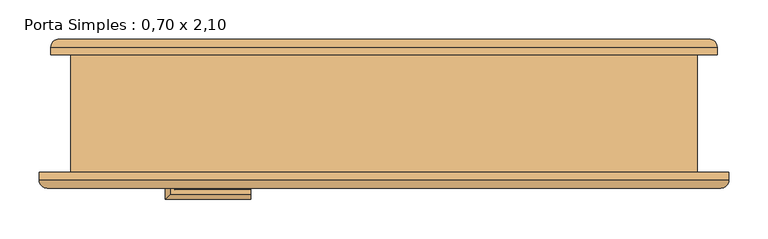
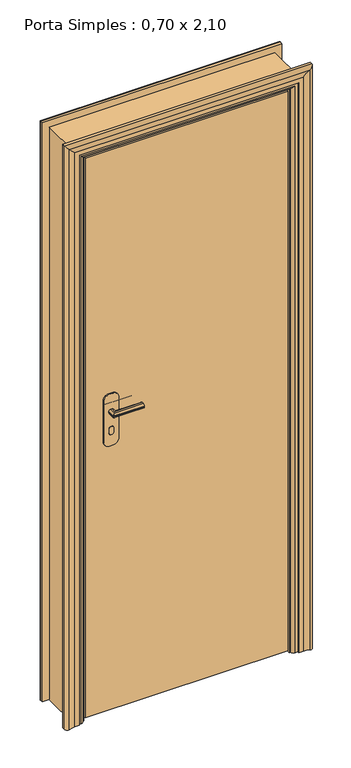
"""IFC4 building model written with IfcOpenShell, lengths in millimetres: door geometry, Porta Simples : 0,70 x 2,10."""

from ifc_helpers import new_model, si_unit, point, frame, frame_2d, origin, place, context, project, spatial, polyline, circle_curve, ellipse_curve, trimmed, segment, composite_curve, outline, extrude, faceted_brep, source, transform, mapped, element, save
from ifc_brep_helpers import plane_surface, cylinder_surface, revolved_surface, advanced_brep


def porta_simples_0_70_x_2_10_61f2850b(model_context):
    return source(origin(), model_context, "Body", "SolidModel", [
        faceted_brep([(-275.0, -75.0, 0.0), (-275.0, 75.0, 0.0), (-225.0, 75.0, 0.0), (-225.0, -45.0, 0.0), (-240.0, -45.0, 0.0), (-240.0, -75.0, 0.0), (-275.0, -75.0, 2150.0), (-275.0, 75.0, 2150.0), (525.0, 75.0, 2150.0), (525.0, 75.0, 0.0), (475.0, 75.0, 0.0), (475.0, 75.0, 2100.0), (-225.0, 75.0, 2100.0), (-225.0, -45.0, 2100.0), (475.0, -45.0, 2100.0), (475.0, -45.0, 0.0), (490.0, -45.0, 0.0), (490.0, -45.0, 2115.0), (-240.0, -45.0, 2115.0), (-240.0, -75.0, 2115.0), (490.0, -75.0, 2115.0), (490.0, -75.0, 0.0), (525.0, -75.0, 0.0), (525.0, -75.0, 2150.0)], [[[0, 1, 2, 3, 4, 5]], [[1, 0, 6, 7]], [[2, 1, 7, 8, 9, 10, 11, 12]], [[3, 2, 12, 13]], [[4, 3, 13, 14, 15, 16, 17, 18]], [[5, 4, 18, 19]], [[0, 5, 19, 20, 21, 22, 23, 6]], [[8, 23, 22, 9]], [[22, 21, 16, 15, 10, 9]], [[14, 11, 10, 15]], [[20, 17, 16, 21]], [[7, 6, 23, 8]], [[13, 12, 11, 14]], [[19, 18, 17, 20]]]),
        advanced_brep(
        [(-315.0, -75.0, 0.0), (-245.0, -75.0, 0.0), (-255.0, -85.0, 0.0), (-265.0, -85.0, 0.0), (-265.0, -90.0, 0.0), (-280.6293207, -90.0, 0.0), (-302.4138145, -94.6597953, 0.0), (-315.0, -85.0, 0.0), (-315.0, -75.0, 2190.0), (565.0, -75.0, 2190.0), (565.0, -75.0, 0.0), (495.0, -75.0, 0.0), (495.0, -75.0, 2120.0), (-245.0, -75.0, 2120.0), (-255.0, -85.0, 2130.0), (505.0, -85.0, 2130.0), (505.0, -85.0, 0.0), (515.0, -85.0, 0.0), (515.0, -85.0, 2140.0), (-265.0, -85.0, 2140.0), (-265.0, -90.0, 2140.0), (515.0, -90.0, 2140.0), (515.0, -90.0, 0.0), (530.6293207, -90.0, 0.0), (530.6293207, -90.0, 2155.6293207), (-280.6293207, -90.0, 2155.6293207), (-302.4138145, -94.6597953, 2177.4138145), (-315.0, -85.0, 2190.0), (565.0, -85.0, 2190.0), (565.0, -85.0, 0.0), (552.4138145, -94.6597953, 0.0), (552.4138145, -94.6597953, 2177.4138145)],
        [
            (0, 1),
            (1, 2, circle_curve(frame((-255.0, -75.0, 0.0), z_axis=(0.0, 0.0, -1.0), x_axis=(-1.0, 0.0, 0.0)), 10.0)),
            (2, 3),
            (3, 4),
            (4, 5),
            (5, 6, circle_curve(frame((-277.8146603, -156.4095448, 0.0), z_axis=(0.0, 0.0, 1.0), x_axis=(-1.0, 0.0, 0.0)), 66.4691655)),
            (6, 7, circle_curve(frame((-305.0, -85.0, 0.0), z_axis=(0.0, 0.0, -1.0), x_axis=(-1.0, 0.0, 0.0)), 10.0)),
            (7, 0),
            (0, 8),
            (8, 9),
            (9, 10),
            (10, 11),
            (11, 12),
            (12, 13),
            (13, 1),
            (13, 14, ellipse_curve(frame((-255.0, -75.0, 2130.0), z_axis=(-0.7071067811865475, 0.0, -0.7071067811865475), x_axis=(0.7071067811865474, 0.0, -0.7071067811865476)), 14.1421356, 10.0)),
            (14, 2),
            (14, 15),
            (15, 16),
            (16, 17),
            (17, 18),
            (18, 19),
            (19, 3),
            (19, 20),
            (20, 4),
            (20, 21),
            (21, 22),
            (22, 23),
            (23, 24),
            (24, 25),
            (25, 5),
            (25, 26, ellipse_curve(frame((-277.8146603, -156.4095448, 2152.8146603), z_axis=(0.7071067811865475, 0.0, 0.7071067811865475), x_axis=(-0.7071067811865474, 0.0, 0.7071067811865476)), 94.0015953, 66.4691655)),
            (26, 6),
            (26, 27, ellipse_curve(frame((-305.0, -85.0, 2180.0), z_axis=(-0.7071067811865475, 0.0, -0.7071067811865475), x_axis=(0.7071067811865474, 0.0, -0.7071067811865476)), 14.1421356, 10.0)),
            (27, 7),
            (27, 8),
            (9, 28),
            (28, 29),
            (29, 10),
            (29, 30, circle_curve(frame((555.0, -85.0, 0.0), z_axis=(0.0, 0.0, -1.0), x_axis=(1.0, 0.0, 0.0)), 10.0)),
            (30, 23, circle_curve(frame((527.8146603, -156.4095448, 0.0), z_axis=(0.0, 0.0, 1.0), x_axis=(1.0, 0.0, 0.0)), 66.4691655)),
            (22, 17),
            (16, 11, circle_curve(frame((505.0, -75.0, 0.0), z_axis=(0.0, 0.0, -1.0), x_axis=(1.0, 0.0, 0.0)), 10.0)),
            (15, 12, ellipse_curve(frame((505.0, -75.0, 2130.0), z_axis=(0.7071067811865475, 0.0, -0.7071067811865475), x_axis=(0.7071067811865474, 0.0, 0.7071067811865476)), 14.1421356, 10.0)),
            (21, 18),
            (31, 24, ellipse_curve(frame((527.8146603, -156.4095448, 2152.8146603), z_axis=(-0.7071067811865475, 0.0, 0.7071067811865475), x_axis=(-0.7071067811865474, 0.0, -0.7071067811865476)), 94.0015953, 66.4691655)),
            (30, 31),
            (28, 31, ellipse_curve(frame((555.0, -85.0, 2180.0), z_axis=(0.7071067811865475, 0.0, -0.7071067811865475), x_axis=(0.7071067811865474, 0.0, 0.7071067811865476)), 14.1421356, 10.0)),
            (31, 26),
            (28, 27),
        ],
        [
            plane_surface(frame((-225.0, -75.0, 0.0), z_axis=(0.0, 0.0, -1.0), x_axis=(0.0, -1.0, 0.0))),
            plane_surface(frame((-315.0, -75.0, 0.0), z_axis=(0.0, 1.0, 0.0), x_axis=(0.0, 0.0, 1.0))),
            cylinder_surface(frame((-255.0, -75.0, 0.0), z_axis=(0.0, 0.0, -1.0), x_axis=(-1.0, 0.0, 0.0)), 10.0),
            plane_surface(frame((-255.0, -85.0, 0.0), z_axis=(0.0, -1.0, 0.0), x_axis=(0.0, 0.0, 1.0))),
            plane_surface(frame((-265.0, -85.0, 0.0), z_axis=(1.0, 0.0, 0.0), x_axis=(0.0, 0.0, 1.0))),
            plane_surface(frame((-265.0, -90.0, 0.0), z_axis=(0.0, -1.0, 0.0), x_axis=(0.0, 0.0, 1.0))),
            revolved_surface(polyline([(-344.28382580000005, -156.4095448, 2219.2838257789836), (-344.28382580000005, -156.4095448, 0.0)]), (-277.8146603, -156.4095448, 0.0), (0.0, 0.0, 1.0)),
            cylinder_surface(frame((-305.0, -85.0, 0.0), z_axis=(0.0, 0.0, -1.0), x_axis=(-1.0, 0.0, 0.0)), 10.0),
            plane_surface(frame((-315.0, -85.0, 0.0), z_axis=(-1.0, 0.0, 0.0), x_axis=(0.0, 0.0, 1.0))),
            plane_surface(frame((565.0, -85.0, 2190.0), z_axis=(1.0, 0.0, 0.0), x_axis=(0.0, 0.0, -1.0))),
            plane_surface(frame((475.0, -75.0, 0.0), z_axis=(0.0, 0.0, -1.0), x_axis=(0.0, -1.0, 0.0))),
            cylinder_surface(frame((505.0, -75.0, 2100.0), z_axis=(0.0, 0.0, 1.0), x_axis=(1.0, 0.0, 0.0)), 10.0),
            plane_surface(frame((515.0, -85.0, 2140.0), z_axis=(-1.0, 0.0, 0.0), x_axis=(0.0, 0.0, -1.0))),
            revolved_surface(polyline([(594.2838258, -156.4095448, 0.0), (594.2838258, -156.4095448, 2219.2838257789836)]), (527.8146603, -156.4095448, 2100.0), (0.0, 0.0, -1.0)),
            cylinder_surface(frame((555.0, -85.0, 2100.0), z_axis=(0.0, 0.0, 1.0), x_axis=(1.0, 0.0, 0.0)), 10.0),
            cylinder_surface(frame((-225.0, -75.0, 2130.0), z_axis=(-1.0, 0.0, 0.0), x_axis=(0.0, 0.0, 1.0)), 10.0),
            plane_surface(frame((-265.0, -85.0, 2140.0), z_axis=(0.0, 0.0, -1.0), x_axis=(1.0, 0.0, 0.0))),
            revolved_surface(polyline([(594.2838257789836, -156.4095448, 2219.2838258), (-344.2838257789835, -156.4095448, 2219.2838258)]), (-225.0, -156.4095448, 2152.8146603), (1.0, 0.0, 0.0)),
            cylinder_surface(frame((-225.0, -85.0, 2180.0), z_axis=(-1.0, 0.0, 0.0), x_axis=(0.0, 0.0, 1.0)), 10.0),
            plane_surface(frame((-315.0, -85.0, 2190.0), z_axis=(0.0, 0.0, 1.0), x_axis=(1.0, 0.0, 0.0))),
        ],
        [
            (0, [[1, 2, 3, 4, 5, 6, 7, 8]]),
            (1, [[-1, 9, 10, 11, 12, 13, 14, 15]]),
            (2, [[-2, -15, 16, 17]]),
            (3, [[-3, -17, 18, 19, 20, 21, 22, 23]]),
            (4, [[-4, -23, 24, 25]]),
            (5, [[-5, -25, 26, 27, 28, 29, 30, 31]]),
            (6, [[-6, -31, 32, 33]]),
            (7, [[-7, -33, 34, 35]]),
            (8, [[-8, -35, 36, -9]]),
            (9, [[37, 38, 39, -11]]),
            (10, [[-39, 40, 41, -28, 42, -20, 43, -12]]),
            (11, [[44, -13, -43, -19]]),
            (12, [[45, -21, -42, -27]]),
            (13, [[46, -29, -41, 47]]),
            (14, [[48, -47, -40, -38]]),
            (15, [[-16, -14, -44, -18]]),
            (16, [[-24, -22, -45, -26]]),
            (17, [[-32, -30, -46, 49]]),
            (18, [[-34, -49, -48, 50]]),
            (19, [[-36, -50, -37, -10]]),
        ],
    ),
        advanced_brep(
        [(550.0, 75.0, 0.0), (480.0, 75.0, 0.0), (490.0, 85.0, 0.0), (500.0, 85.0, 0.0), (500.0, 90.0, 0.0), (515.6293207, 90.0, 0.0), (537.4138145, 94.6597953, 0.0), (550.0, 85.0, 0.0), (550.0, 75.0, 2175.0), (-300.0, 75.0, 2175.0), (-300.0, 75.0, 0.0), (-230.0, 75.0, 0.0), (-230.0, 75.0, 2105.0), (480.0, 75.0, 2105.0), (490.0, 85.0, 2115.0), (-240.0, 85.0, 2115.0), (-240.0, 85.0, 0.0), (-250.0, 85.0, 0.0), (-250.0, 85.0, 2125.0), (500.0, 85.0, 2125.0), (500.0, 90.0, 2125.0), (-250.0, 90.0, 2125.0), (-250.0, 90.0, 0.0), (-265.6293207, 90.0, 0.0), (-265.6293207, 90.0, 2140.6293207), (515.6293207, 90.0, 2140.6293207), (537.4138145, 94.6597953, 2162.4138145), (550.0, 85.0, 2175.0), (-300.0, 85.0, 2175.0), (-300.0, 85.0, 0.0), (-287.4138145, 94.6597953, 0.0), (-287.4138145, 94.6597953, 2162.4138145)],
        [
            (0, 1),
            (1, 2, circle_curve(frame((490.0, 75.0, 0.0), z_axis=(0.0, 0.0, -1.0), x_axis=(-1.0, 0.0, 0.0)), 10.0)),
            (2, 3),
            (3, 4),
            (4, 5),
            (5, 6, circle_curve(frame((512.8146603, 156.4095448, 0.0), z_axis=(0.0, 0.0, 1.0), x_axis=(-1.0, 0.0, 0.0)), 66.4691655)),
            (6, 7, circle_curve(frame((540.0, 85.0, 0.0), z_axis=(0.0, 0.0, -1.0), x_axis=(-1.0, 0.0, 0.0)), 10.0)),
            (7, 0),
            (0, 8),
            (8, 9),
            (9, 10),
            (10, 11),
            (11, 12),
            (12, 13),
            (13, 1),
            (13, 14, ellipse_curve(frame((490.0, 75.0, 2115.0), z_axis=(0.7071067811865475, 0.0, -0.7071067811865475), x_axis=(-0.7071067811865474, 0.0, -0.7071067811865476)), 14.1421356, 10.0)),
            (14, 2),
            (14, 15),
            (15, 16),
            (16, 17),
            (17, 18),
            (18, 19),
            (19, 3),
            (19, 20),
            (20, 4),
            (20, 21),
            (21, 22),
            (22, 23),
            (23, 24),
            (24, 25),
            (25, 5),
            (25, 26, ellipse_curve(frame((512.8146603, 156.4095448, 2137.8146603), z_axis=(-0.7071067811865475, 0.0, 0.7071067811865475), x_axis=(0.7071067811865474, 0.0, 0.7071067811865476)), 94.0015953, 66.4691655)),
            (26, 6),
            (26, 27, ellipse_curve(frame((540.0, 85.0, 2165.0), z_axis=(0.7071067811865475, 0.0, -0.7071067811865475), x_axis=(-0.7071067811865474, 0.0, -0.7071067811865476)), 14.1421356, 10.0)),
            (27, 7),
            (27, 8),
            (9, 28),
            (28, 29),
            (29, 10),
            (29, 30, circle_curve(frame((-290.0, 85.0, 0.0), z_axis=(0.0, 0.0, -1.0), x_axis=(1.0, 0.0, 0.0)), 10.0)),
            (30, 23, circle_curve(frame((-262.8146603, 156.4095448, 0.0), z_axis=(0.0, 0.0, 1.0), x_axis=(1.0, 0.0, 0.0)), 66.4691655)),
            (22, 17),
            (16, 11, circle_curve(frame((-240.0, 75.0, 0.0), z_axis=(0.0, 0.0, -1.0), x_axis=(1.0, 0.0, 0.0)), 10.0)),
            (15, 12, ellipse_curve(frame((-240.0, 75.0, 2115.0), z_axis=(-0.7071067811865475, 0.0, -0.7071067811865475), x_axis=(-0.7071067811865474, 0.0, 0.7071067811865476)), 14.1421356, 10.0)),
            (21, 18),
            (31, 24, ellipse_curve(frame((-262.8146603, 156.4095448, 2137.8146603), z_axis=(0.7071067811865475, 0.0, 0.7071067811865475), x_axis=(0.7071067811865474, 0.0, -0.7071067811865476)), 94.0015953, 66.4691655)),
            (30, 31),
            (28, 31, ellipse_curve(frame((-290.0, 85.0, 2165.0), z_axis=(-0.7071067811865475, 0.0, -0.7071067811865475), x_axis=(-0.7071067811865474, 0.0, 0.7071067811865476)), 14.1421356, 10.0)),
            (31, 26),
            (28, 27),
        ],
        [
            plane_surface(frame((475.0, 75.0, 0.0), z_axis=(0.0, 0.0, -1.0), x_axis=(0.0, -1.0, 0.0))),
            plane_surface(frame((550.0, 75.0, 0.0), z_axis=(0.0, -1.0, 0.0), x_axis=(0.0, 0.0, 1.0))),
            cylinder_surface(frame((490.0, 75.0, 0.0), z_axis=(0.0, 0.0, -1.0), x_axis=(-1.0, 0.0, 0.0)), 10.0),
            plane_surface(frame((490.0, 85.0, 0.0), z_axis=(0.0, 1.0, 0.0), x_axis=(0.0, 0.0, 1.0))),
            plane_surface(frame((500.0, 85.0, 0.0), z_axis=(-1.0, 0.0, 0.0), x_axis=(0.0, 0.0, 1.0))),
            plane_surface(frame((500.0, 90.0, 0.0), z_axis=(0.0, 1.0, 0.0), x_axis=(0.0, 0.0, 1.0))),
            revolved_surface(polyline([(446.3454948, 156.4095448, 2204.2838257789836), (446.3454948, 156.4095448, 0.0)]), (512.8146603, 156.4095448, 0.0), (0.0, 0.0, 1.0)),
            cylinder_surface(frame((540.0, 85.0, 0.0), z_axis=(0.0, 0.0, -1.0), x_axis=(-1.0, 0.0, 0.0)), 10.0),
            plane_surface(frame((550.0, 85.0, 0.0), z_axis=(1.0, 0.0, 0.0), x_axis=(0.0, 0.0, 1.0))),
            plane_surface(frame((-300.0, 85.0, 2175.0), z_axis=(-1.0, 0.0, 0.0), x_axis=(0.0, 0.0, -1.0))),
            plane_surface(frame((-225.0, 75.0, 0.0), z_axis=(0.0, 0.0, -1.0), x_axis=(0.0, -1.0, 0.0))),
            cylinder_surface(frame((-240.0, 75.0, 2100.0), z_axis=(0.0, 0.0, 1.0), x_axis=(1.0, 0.0, 0.0)), 10.0),
            plane_surface(frame((-250.0, 85.0, 2125.0), z_axis=(1.0, 0.0, 0.0), x_axis=(0.0, 0.0, -1.0))),
            revolved_surface(polyline([(-196.3454948, 156.4095448, 0.0), (-196.3454948, 156.4095448, 2204.2838257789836)]), (-262.8146603, 156.4095448, 2100.0), (0.0, 0.0, -1.0)),
            cylinder_surface(frame((-290.0, 85.0, 2100.0), z_axis=(0.0, 0.0, 1.0), x_axis=(1.0, 0.0, 0.0)), 10.0),
            cylinder_surface(frame((475.0, 75.0, 2115.0), z_axis=(1.0, 0.0, 0.0), x_axis=(0.0, 0.0, -1.0)), 10.0),
            plane_surface(frame((500.0, 85.0, 2125.0), z_axis=(0.0, 0.0, -1.0), x_axis=(-1.0, 0.0, 0.0))),
            revolved_surface(polyline([(-329.28382577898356, 156.4095448, 2071.3454948), (579.2838257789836, 156.4095448, 2071.3454948)]), (475.0, 156.4095448, 2137.8146603), (-1.0, 0.0, 0.0)),
            cylinder_surface(frame((475.0, 85.0, 2165.0), z_axis=(1.0, 0.0, 0.0), x_axis=(0.0, 0.0, -1.0)), 10.0),
            plane_surface(frame((550.0, 85.0, 2175.0), z_axis=(0.0, 0.0, 1.0), x_axis=(-1.0, 0.0, 0.0))),
        ],
        [
            (0, [[1, 2, 3, 4, 5, 6, 7, 8]]),
            (1, [[-1, 9, 10, 11, 12, 13, 14, 15]]),
            (2, [[-2, -15, 16, 17]]),
            (3, [[-3, -17, 18, 19, 20, 21, 22, 23]]),
            (4, [[-4, -23, 24, 25]]),
            (5, [[-5, -25, 26, 27, 28, 29, 30, 31]]),
            (6, [[-6, -31, 32, 33]]),
            (7, [[-7, -33, 34, 35]]),
            (8, [[-8, -35, 36, -9]]),
            (9, [[37, 38, 39, -11]]),
            (10, [[-39, 40, 41, -28, 42, -20, 43, -12]]),
            (11, [[44, -13, -43, -19]]),
            (12, [[45, -21, -42, -27]]),
            (13, [[46, -29, -41, 47]]),
            (14, [[48, -47, -40, -38]]),
            (15, [[-16, -14, -44, -18]]),
            (16, [[-24, -22, -45, -26]]),
            (17, [[-32, -30, -46, 49]]),
            (18, [[-34, -49, -48, 50]]),
            (19, [[-36, -50, -37, -10]]),
        ],
    ),
        extrude(outline(polyline([(485.0, -75.0), (-235.0, -75.0), (-235.0, -50.0), (485.0, -50.0), (485.0, -75.0)])), frame((0.0, 0.0, 8.1477484), z_axis=(0.0, 0.0, 1.0), x_axis=(1.0, 0.0, 0.0)), (0.0, 0.0, 1.0), 2101.656598),
        extrude(outline(composite_curve([segment(polyline([(1074.1608226, -141.7917437), (1074.1608226, -146.7917437)]), True, "CONTINUOUS"), segment(trimmed(circle_curve(frame_2d((1069.1608226, -146.7917437)), 5.0), [point((1074.1608226, -146.7917437))], [point((1069.1608226, -151.7917437))], False, "CARTESIAN"), True, "CONTINUOUS"), segment(polyline([(1069.1608226, -151.7917437), (1049.1608226, -151.7917437)]), True, "CONTINUOUS"), segment(trimmed(circle_curve(frame_2d((1049.1608226, -146.7917437)), 5.0), [point((1049.1608226, -151.7917437))], [point((1044.1608226, -146.7917437))], False, "CARTESIAN"), True, "CONTINUOUS"), segment(polyline([(1044.1608226, -146.7917437), (1044.1608226, -141.7917437)]), True, "CONTINUOUS"), segment(trimmed(circle_curve(frame_2d((1049.1608226, -141.7917437)), 5.0), [point((1044.1608226, -141.7917437))], [point((1049.1608226, -136.7917437))], False, "CARTESIAN"), True, "CONTINUOUS"), segment(polyline([(1049.1608226, -136.7917437), (1069.1608226, -136.7917437)]), True, "CONTINUOUS"), segment(trimmed(circle_curve(frame_2d((1069.1608226, -141.7917437)), 5.0), [point((1069.1608226, -136.7917437))], [point((1074.1608226, -141.7917437))], False, "CARTESIAN"), True, "CONTINUOUS")], self_intersect=False)), frame((0.0, -50.0, 0.0), z_axis=(0.0, 1.0, 0.0), x_axis=(0.0, 0.0, 1.0)), (0.0, 0.0, 1.0), 5.0),
        advanced_brep(
        [(-142.0, -45.0, 1139.6482305), (-148.0, -45.0, 1139.6482305), (-154.0, -45.0, 1133.6482305), (-154.0, -45.0, 1129.6482305), (-148.0, -45.0, 1123.6482305), (-142.0, -45.0, 1123.6482305), (-136.0, -45.0, 1129.6482305), (-136.0, -45.0, 1133.6482305), (-142.0, -28.0, 1139.6482305), (-45.0, -28.0, 1139.6482305), (-45.0, -22.0, 1139.6482305), (-148.0, -22.0, 1139.6482305), (-154.0, -16.0, 1133.6482305), (-154.0, -16.0, 1129.6482305), (-148.0, -22.0, 1123.6482305), (-45.0, -22.0, 1123.6482305), (-45.0, -28.0, 1123.6482305), (-142.0, -28.0, 1123.6482305), (-136.0, -34.0, 1129.6482305), (-136.0, -34.0, 1133.6482305), (-45.0, -34.0, 1133.6482305), (-45.0, -34.0, 1129.6482305), (-45.0, -16.0, 1129.6482305), (-45.0, -16.0, 1133.6482305)],
        [
            (0, 1),
            (1, 2, circle_curve(frame((-148.0, -45.0, 1133.6482305), z_axis=(0.0, -1.0, 0.0), x_axis=(-1.0, 0.0, 0.0)), 6.0)),
            (2, 3),
            (3, 4, circle_curve(frame((-148.0, -45.0, 1129.6482305), z_axis=(0.0, -1.0, 0.0), x_axis=(-1.0, 0.0, 0.0)), 6.0)),
            (4, 5),
            (5, 6, circle_curve(frame((-142.0, -45.0, 1129.6482305), z_axis=(0.0, -1.0, 0.0), x_axis=(-1.0, 0.0, 0.0)), 6.0)),
            (6, 7),
            (7, 0, circle_curve(frame((-142.0, -45.0, 1133.6482305), z_axis=(0.0, -1.0, 0.0), x_axis=(-1.0, 0.0, 0.0)), 6.0)),
            (0, 8),
            (8, 9),
            (9, 10),
            (10, 11),
            (11, 1),
            (11, 12, ellipse_curve(frame((-148.0, -22.0, 1133.6482305), z_axis=(-0.7071067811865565, -0.7071067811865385, 0.0), x_axis=(0.7071067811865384, -0.7071067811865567, 0.0)), 8.4852814, 6.0)),
            (12, 2),
            (12, 13),
            (13, 3),
            (13, 14, ellipse_curve(frame((-148.0, -22.0, 1129.6482305), z_axis=(-0.7071067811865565, -0.7071067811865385, 0.0), x_axis=(0.7071067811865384, -0.7071067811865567, 0.0)), 8.4852814, 6.0)),
            (14, 4),
            (14, 15),
            (15, 16),
            (16, 17),
            (17, 5),
            (17, 18, ellipse_curve(frame((-142.0, -28.0, 1129.6482305), z_axis=(-0.7071067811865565, -0.7071067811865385, 0.0), x_axis=(0.7071067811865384, -0.7071067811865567, 0.0)), 8.4852814, 6.0)),
            (18, 6),
            (18, 19),
            (19, 7),
            (19, 8, ellipse_curve(frame((-142.0, -28.0, 1133.6482305), z_axis=(-0.7071067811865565, -0.7071067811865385, 0.0), x_axis=(0.7071067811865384, -0.7071067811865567, 0.0)), 8.4852814, 6.0)),
            (9, 20, circle_curve(frame((-45.0, -28.0, 1133.6482305), z_axis=(1.0, 0.0, 0.0), x_axis=(0.0, 1.0, 0.0)), 6.0)),
            (20, 21),
            (21, 16, circle_curve(frame((-45.0, -28.0, 1129.6482305), z_axis=(1.0, 0.0, 0.0), x_axis=(0.0, 1.0, 0.0)), 6.0)),
            (15, 22, circle_curve(frame((-45.0, -22.0, 1129.6482305), z_axis=(1.0, 0.0, 0.0), x_axis=(0.0, 1.0, 0.0)), 6.0)),
            (22, 23),
            (23, 10, circle_curve(frame((-45.0, -22.0, 1133.6482305), z_axis=(1.0, 0.0, 0.0), x_axis=(0.0, 1.0, 0.0)), 6.0)),
            (23, 12),
            (22, 13),
            (21, 18),
            (20, 19),
        ],
        [
            plane_surface(frame((-145.0, -45.0, 0.0), z_axis=(0.0, -1.0, 0.0), x_axis=(0.0, 0.0, 1.0))),
            plane_surface(frame((-142.0, -45.0, 1139.6482305), z_axis=(0.0, 0.0, 1.0), x_axis=(0.0, 1.0, 0.0))),
            cylinder_surface(frame((-148.0, -45.0, 1133.6482305), z_axis=(0.0, -1.0, 0.0), x_axis=(-1.0, 0.0, 0.0)), 6.0),
            plane_surface(frame((-154.0, -45.0, 1133.6482305), z_axis=(-1.0, 0.0, 0.0), x_axis=(0.0, 1.0, 0.0))),
            cylinder_surface(frame((-148.0, -45.0, 1129.6482305), z_axis=(0.0, -1.0, 0.0), x_axis=(-1.0, 0.0, 0.0)), 6.0),
            plane_surface(frame((-148.0, -45.0, 1123.6482305), z_axis=(0.0, 0.0, -1.0), x_axis=(0.0, 1.0, 0.0))),
            cylinder_surface(frame((-142.0, -45.0, 1129.6482305), z_axis=(0.0, -1.0, 0.0), x_axis=(-1.0, 0.0, 0.0)), 6.0),
            plane_surface(frame((-136.0, -45.0, 1129.6482305), z_axis=(1.0, 0.0, 0.0), x_axis=(0.0, 1.0, 0.0))),
            cylinder_surface(frame((-142.0, -45.0, 1133.6482305), z_axis=(0.0, -1.0, 0.0), x_axis=(-1.0, 0.0, 0.0)), 6.0),
            plane_surface(frame((-45.0, -25.0, 0.0), z_axis=(1.0, 0.0, 0.0), x_axis=(0.0, 0.0, 1.0))),
            cylinder_surface(frame((-145.0, -22.0, 1133.6482305), z_axis=(-1.0, 0.0, 0.0), x_axis=(0.0, 1.0, 0.0)), 6.0),
            plane_surface(frame((-154.0, -16.0, 1133.6482305), z_axis=(0.0, 1.0, 0.0), x_axis=(1.0, 0.0, 0.0))),
            cylinder_surface(frame((-145.0, -22.0, 1129.6482305), z_axis=(-1.0, 0.0, 0.0), x_axis=(0.0, 1.0, 0.0)), 6.0),
            cylinder_surface(frame((-145.0, -28.0, 1129.6482305), z_axis=(-1.0, 0.0, 0.0), x_axis=(0.0, 1.0, 0.0)), 6.0),
            plane_surface(frame((-136.0, -34.0, 1129.6482305), z_axis=(0.0, -1.0, 0.0), x_axis=(1.0, 0.0, 0.0))),
            cylinder_surface(frame((-145.0, -28.0, 1133.6482305), z_axis=(-1.0, 0.0, 0.0), x_axis=(0.0, 1.0, 0.0)), 6.0),
        ],
        [
            (0, [[1, 2, 3, 4, 5, 6, 7, 8]]),
            (1, [[-1, 9, 10, 11, 12, 13]]),
            (2, [[-2, -13, 14, 15]]),
            (3, [[-3, -15, 16, 17]]),
            (4, [[-4, -17, 18, 19]]),
            (5, [[-5, -19, 20, 21, 22, 23]]),
            (6, [[-6, -23, 24, 25]]),
            (7, [[-7, -25, 26, 27]]),
            (8, [[-8, -27, 28, -9]]),
            (9, [[29, 30, 31, -21, 32, 33, 34, -11]]),
            (10, [[-14, -12, -34, 35]]),
            (11, [[-16, -35, -33, 36]]),
            (12, [[-18, -36, -32, -20]]),
            (13, [[-24, -22, -31, 37]]),
            (14, [[-26, -37, -30, 38]]),
            (15, [[-28, -38, -29, -10]]),
        ],
    ),
        extrude(outline(composite_curve([segment(polyline([(1197.0, -138.0), (1197.0, -152.0)]), True, "CONTINUOUS"), segment(trimmed(circle_curve(frame_2d((1177.0, -152.0)), 20.0), [point((1197.0, -152.0))], [point((1177.0, -172.0))], False, "CARTESIAN"), True, "CONTINUOUS"), segment(polyline([(1177.0, -172.0), (1023.0, -172.0)]), True, "CONTINUOUS"), segment(trimmed(circle_curve(frame_2d((1023.0, -152.0)), 20.0), [point((1023.0, -172.0))], [point((1003.0, -152.0))], False, "CARTESIAN"), True, "CONTINUOUS"), segment(polyline([(1003.0, -152.0), (1003.0, -138.0)]), True, "CONTINUOUS"), segment(trimmed(circle_curve(frame_2d((1023.0, -138.0)), 20.0), [point((1003.0, -138.0))], [point((1023.0, -118.0))], False, "CARTESIAN"), True, "CONTINUOUS"), segment(polyline([(1023.0, -118.0), (1177.0, -118.0)]), True, "CONTINUOUS"), segment(trimmed(circle_curve(frame_2d((1177.0, -138.0)), 20.0), [point((1177.0, -118.0))], [point((1197.0, -138.0))], False, "CARTESIAN"), True, "CONTINUOUS")], self_intersect=False)), frame((0.0, -50.0, 0.0), z_axis=(0.0, 1.0, 0.0), x_axis=(0.0, 0.0, 1.0)), (0.0, 0.0, 1.0), 5.0),
        extrude(outline(composite_curve([segment(polyline([(1074.1608226, -141.7917437), (1074.1608226, -146.7917437)]), True, "CONTINUOUS"), segment(trimmed(circle_curve(frame_2d((1069.1608226, -146.7917437)), 5.0), [point((1074.1608226, -146.7917437))], [point((1069.1608226, -151.7917437))], False, "CARTESIAN"), True, "CONTINUOUS"), segment(polyline([(1069.1608226, -151.7917437), (1049.1608226, -151.7917437)]), True, "CONTINUOUS"), segment(trimmed(circle_curve(frame_2d((1049.1608226, -146.7917437)), 5.0), [point((1049.1608226, -151.7917437))], [point((1044.1608226, -146.7917437))], False, "CARTESIAN"), True, "CONTINUOUS"), segment(polyline([(1044.1608226, -146.7917437), (1044.1608226, -141.7917437)]), True, "CONTINUOUS"), segment(trimmed(circle_curve(frame_2d((1049.1608226, -141.7917437)), 5.0), [point((1044.1608226, -141.7917437))], [point((1049.1608226, -136.7917437))], False, "CARTESIAN"), True, "CONTINUOUS"), segment(polyline([(1049.1608226, -136.7917437), (1069.1608226, -136.7917437)]), True, "CONTINUOUS"), segment(trimmed(circle_curve(frame_2d((1069.1608226, -141.7917437)), 5.0), [point((1069.1608226, -136.7917437))], [point((1074.1608226, -141.7917437))], False, "CARTESIAN"), True, "CONTINUOUS")], self_intersect=False)), frame((0.0, -80.0, 0.0), z_axis=(0.0, 1.0, 0.0), x_axis=(0.0, 0.0, 1.0)), (0.0, 0.0, 1.0), 5.0),
        advanced_brep(
        [(-142.0, -80.0, 1139.6482305), (-136.0, -80.0, 1133.6482305), (-136.0, -80.0, 1129.6482305), (-142.0, -80.0, 1123.6482305), (-148.0, -80.0, 1123.6482305), (-154.0, -80.0, 1129.6482305), (-154.0, -80.0, 1133.6482305), (-148.0, -80.0, 1139.6482305), (-142.0, -97.0, 1139.6482305), (-136.0, -91.0, 1133.6482305), (-136.0, -91.0, 1129.6482305), (-142.0, -97.0, 1123.6482305), (-45.0, -97.0, 1123.6482305), (-45.0, -103.0, 1123.6482305), (-148.0, -103.0, 1123.6482305), (-154.0, -109.0, 1129.6482305), (-154.0, -109.0, 1133.6482305), (-148.0, -103.0, 1139.6482305), (-45.0, -103.0, 1139.6482305), (-45.0, -97.0, 1139.6482305), (-45.0, -109.0, 1133.6482305), (-45.0, -109.0, 1129.6482305), (-45.0, -91.0, 1129.6482305), (-45.0, -91.0, 1133.6482305)],
        [
            (0, 1, circle_curve(frame((-142.0, -80.0, 1133.6482305), z_axis=(0.0, 1.0, 0.0), x_axis=(1.0, 0.0, 0.0)), 6.0)),
            (1, 2),
            (2, 3, circle_curve(frame((-142.0, -80.0, 1129.6482305), z_axis=(0.0, 1.0, 0.0), x_axis=(1.0, 0.0, 0.0)), 6.0)),
            (3, 4),
            (4, 5, circle_curve(frame((-148.0, -80.0, 1129.6482305), z_axis=(0.0, 1.0, 0.0), x_axis=(1.0, 0.0, 0.0)), 6.0)),
            (5, 6),
            (6, 7, circle_curve(frame((-148.0, -80.0, 1133.6482305), z_axis=(0.0, 1.0, 0.0), x_axis=(1.0, 0.0, 0.0)), 6.0)),
            (7, 0),
            (0, 8),
            (8, 9, ellipse_curve(frame((-142.0, -97.0, 1133.6482305), z_axis=(-0.7071067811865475, 0.7071067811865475, 0.0), x_axis=(0.7071067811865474, 0.7071067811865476, 0.0)), 8.4852814, 6.0)),
            (9, 1),
            (9, 10),
            (10, 2),
            (10, 11, ellipse_curve(frame((-142.0, -97.0, 1129.6482305), z_axis=(-0.7071067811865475, 0.7071067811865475, 0.0), x_axis=(0.7071067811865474, 0.7071067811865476, 0.0)), 8.4852814, 6.0)),
            (11, 3),
            (11, 12),
            (12, 13),
            (13, 14),
            (14, 4),
            (14, 15, ellipse_curve(frame((-148.0, -103.0, 1129.6482305), z_axis=(-0.7071067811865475, 0.7071067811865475, 0.0), x_axis=(0.7071067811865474, 0.7071067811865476, 0.0)), 8.4852814, 6.0)),
            (15, 5),
            (15, 16),
            (16, 6),
            (16, 17, ellipse_curve(frame((-148.0, -103.0, 1133.6482305), z_axis=(-0.7071067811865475, 0.7071067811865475, 0.0), x_axis=(0.7071067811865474, 0.7071067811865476, 0.0)), 8.4852814, 6.0)),
            (17, 7),
            (17, 18),
            (18, 19),
            (19, 8),
            (18, 20, circle_curve(frame((-45.0, -103.0, 1133.6482305), z_axis=(1.0, 0.0, 0.0), x_axis=(0.0, 1.0, 0.0)), 6.0)),
            (20, 21),
            (21, 13, circle_curve(frame((-45.0, -103.0, 1129.6482305), z_axis=(1.0, 0.0, 0.0), x_axis=(0.0, 1.0, 0.0)), 6.0)),
            (12, 22, circle_curve(frame((-45.0, -97.0, 1129.6482305), z_axis=(1.0, 0.0, 0.0), x_axis=(0.0, 1.0, 0.0)), 6.0)),
            (22, 23),
            (23, 19, circle_curve(frame((-45.0, -97.0, 1133.6482305), z_axis=(1.0, 0.0, 0.0), x_axis=(0.0, 1.0, 0.0)), 6.0)),
            (23, 9),
            (22, 10),
            (21, 15),
            (20, 16),
        ],
        [
            plane_surface(frame((-145.0, -80.0, 0.0), z_axis=(0.0, 1.0, 0.0), x_axis=(0.0, 0.0, 1.0))),
            cylinder_surface(frame((-142.0, -80.0, 1133.6482305), z_axis=(0.0, 1.0, 0.0), x_axis=(1.0, 0.0, 0.0)), 6.0),
            plane_surface(frame((-136.0, -80.0, 1133.6482305), z_axis=(1.0, 0.0, 0.0), x_axis=(0.0, -1.0, 0.0))),
            cylinder_surface(frame((-142.0, -80.0, 1129.6482305), z_axis=(0.0, 1.0, 0.0), x_axis=(1.0, 0.0, 0.0)), 6.0),
            plane_surface(frame((-142.0, -80.0, 1123.6482305), z_axis=(0.0, 0.0, -1.0), x_axis=(0.0, -1.0, 0.0))),
            cylinder_surface(frame((-148.0, -80.0, 1129.6482305), z_axis=(0.0, 1.0, 0.0), x_axis=(1.0, 0.0, 0.0)), 6.0),
            plane_surface(frame((-154.0, -80.0, 1129.6482305), z_axis=(-1.0, 0.0, 0.0), x_axis=(0.0, -1.0, 0.0))),
            cylinder_surface(frame((-148.0, -80.0, 1133.6482305), z_axis=(0.0, 1.0, 0.0), x_axis=(1.0, 0.0, 0.0)), 6.0),
            plane_surface(frame((-148.0, -80.0, 1139.6482305), z_axis=(0.0, 0.0, 1.0), x_axis=(0.0, -1.0, 0.0))),
            plane_surface(frame((-45.0, -100.0, 0.0), z_axis=(1.0, 0.0, 0.0), x_axis=(0.0, 0.0, 1.0))),
            cylinder_surface(frame((-145.0, -97.0, 1133.6482305), z_axis=(-1.0, 0.0, 0.0), x_axis=(0.0, 1.0, 0.0)), 6.0),
            plane_surface(frame((-136.0, -91.0, 1133.6482305), z_axis=(0.0, 1.0, 0.0), x_axis=(1.0, 0.0, 0.0))),
            cylinder_surface(frame((-145.0, -97.0, 1129.6482305), z_axis=(-1.0, 0.0, 0.0), x_axis=(0.0, 1.0, 0.0)), 6.0),
            cylinder_surface(frame((-145.0, -103.0, 1129.6482305), z_axis=(-1.0, 0.0, 0.0), x_axis=(0.0, 1.0, 0.0)), 6.0),
            plane_surface(frame((-154.0, -109.0, 1129.6482305), z_axis=(0.0, -1.0, 0.0), x_axis=(1.0, 0.0, 0.0))),
            cylinder_surface(frame((-145.0, -103.0, 1133.6482305), z_axis=(-1.0, 0.0, 0.0), x_axis=(0.0, 1.0, 0.0)), 6.0),
        ],
        [
            (0, [[1, 2, 3, 4, 5, 6, 7, 8]]),
            (1, [[-1, 9, 10, 11]]),
            (2, [[-2, -11, 12, 13]]),
            (3, [[-3, -13, 14, 15]]),
            (4, [[-4, -15, 16, 17, 18, 19]]),
            (5, [[-5, -19, 20, 21]]),
            (6, [[-6, -21, 22, 23]]),
            (7, [[-7, -23, 24, 25]]),
            (8, [[-8, -25, 26, 27, 28, -9]]),
            (9, [[-27, 29, 30, 31, -17, 32, 33, 34]]),
            (10, [[-10, -28, -34, 35]]),
            (11, [[-12, -35, -33, 36]]),
            (12, [[-14, -36, -32, -16]]),
            (13, [[-20, -18, -31, 37]]),
            (14, [[-22, -37, -30, 38]]),
            (15, [[-24, -38, -29, -26]]),
        ],
    ),
        extrude(outline(composite_curve([segment(polyline([(1197.0, -138.0), (1197.0, -152.0)]), True, "CONTINUOUS"), segment(trimmed(circle_curve(frame_2d((1177.0, -152.0)), 20.0), [point((1197.0, -152.0))], [point((1177.0, -172.0))], False, "CARTESIAN"), True, "CONTINUOUS"), segment(polyline([(1177.0, -172.0), (1023.0, -172.0)]), True, "CONTINUOUS"), segment(trimmed(circle_curve(frame_2d((1023.0, -152.0)), 20.0), [point((1023.0, -172.0))], [point((1003.0, -152.0))], False, "CARTESIAN"), True, "CONTINUOUS"), segment(polyline([(1003.0, -152.0), (1003.0, -138.0)]), True, "CONTINUOUS"), segment(trimmed(circle_curve(frame_2d((1023.0, -138.0)), 20.0), [point((1003.0, -138.0))], [point((1023.0, -118.0))], False, "CARTESIAN"), True, "CONTINUOUS"), segment(polyline([(1023.0, -118.0), (1177.0, -118.0)]), True, "CONTINUOUS"), segment(trimmed(circle_curve(frame_2d((1177.0, -138.0)), 20.0), [point((1177.0, -118.0))], [point((1197.0, -138.0))], False, "CARTESIAN"), True, "CONTINUOUS")], self_intersect=False)), frame((0.0, -80.0, 0.0), z_axis=(0.0, 1.0, 0.0), x_axis=(0.0, 0.0, 1.0)), (0.0, 0.0, 1.0), 5.0),
    ])


if __name__ == "__main__":
    model = new_model("IFC4")
    model_context = context("Model", 3, world=origin())
    ifc_project = project(units=[si_unit("LENGTHUNIT", "METRE", prefix="MILLI")], contexts=[model_context])
    site = spatial("IfcSite", under=ifc_project)
    building = spatial("IfcBuilding", under=site)
    placement = place(None, origin())
    porta_simples_0_70_x_2_10_shape = porta_simples_0_70_x_2_10_61f2850b(model_context)
    element("IfcDoor", 1, ObjectType="Porta Simples : 0,70 x 2,10", at=placement, inside=building, context=model_context, shape_type="MappedRepresentation", body=[
        mapped(porta_simples_0_70_x_2_10_shape, transform((0.0, 0.0, 0.0), x_axis=(1.0, 0.0, 0.0), y_axis=(0.0, 1.0, 0.0), z_axis=(0.0, 0.0, 1.0))),
    ])
    save(model, "model.ifc")
